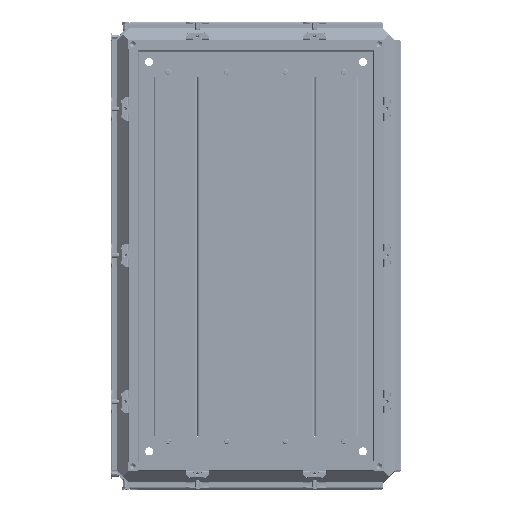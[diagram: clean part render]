
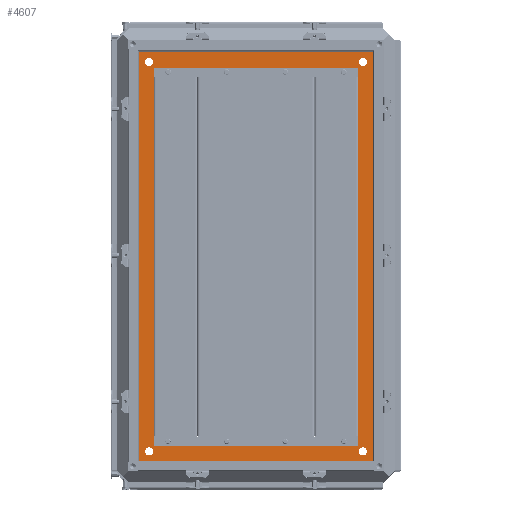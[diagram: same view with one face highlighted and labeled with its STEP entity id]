
A CAD part, top view. The second image highlights one B-rep face of the part: STEP entity #4607.
In plain terms, the highlighted planar face has unit normal (0, 0, 1).
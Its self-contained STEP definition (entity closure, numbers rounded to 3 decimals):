
#4607=ADVANCED_FACE('',(#15779,#15781,#15783,#15785,#15787,#15789),#15791,.F.);
#15779=FACE_BOUND('',#15780,.T.);
#15780=EDGE_LOOP('',(#99433,#99434,#99435,#99436));
#15781=FACE_BOUND('',#15782,.T.);
#15782=EDGE_LOOP('',(#99437,#99438,#99439,#99440));
#15783=FACE_BOUND('',#15784,.T.);
#15784=EDGE_LOOP('',(#99441));
#15785=FACE_BOUND('',#15786,.T.);
#15786=EDGE_LOOP('',(#99442));
#15787=FACE_BOUND('',#15788,.T.);
#15788=EDGE_LOOP('',(#99443));
#15789=FACE_BOUND('',#15790,.T.);
#15790=EDGE_LOOP('',(#99444));
#15791=PLANE('',#15792);
#15792=AXIS2_PLACEMENT_3D('',#15793,#15794,#15795);
#15793=CARTESIAN_POINT('',(0.,0.,-47.5));
#15794=DIRECTION('',(0.,0.,-1.));
#15795=DIRECTION('',(0.,1.,0.));
#99433=ORIENTED_EDGE('',*,*,#150031,.F.);
#99434=ORIENTED_EDGE('',*,*,#150032,.F.);
#99435=ORIENTED_EDGE('',*,*,#150033,.T.);
#99436=ORIENTED_EDGE('',*,*,#150034,.T.);
#99437=ORIENTED_EDGE('',*,*,#150035,.T.);
#99438=ORIENTED_EDGE('',*,*,#150036,.F.);
#99439=ORIENTED_EDGE('',*,*,#150037,.F.);
#99440=ORIENTED_EDGE('',*,*,#150038,.F.);
#99441=ORIENTED_EDGE('',*,*,#150039,.T.);
#99442=ORIENTED_EDGE('',*,*,#150040,.F.);
#99443=ORIENTED_EDGE('',*,*,#150041,.F.);
#99444=ORIENTED_EDGE('',*,*,#150042,.T.);
#150031=EDGE_CURVE('',#176238,#176239,#176240,.F.);
#150032=EDGE_CURVE('',#176241,#176238,#176242,.F.);
#150033=EDGE_CURVE('',#176241,#176243,#176244,.F.);
#150034=EDGE_CURVE('',#176243,#176239,#176245,.F.);
#150035=EDGE_CURVE('',#176246,#176247,#176248,.F.);
#150036=EDGE_CURVE('',#176249,#176247,#176250,.F.);
#150037=EDGE_CURVE('',#176251,#176249,#176252,.F.);
#150038=EDGE_CURVE('',#176246,#176251,#176253,.F.);
#150039=EDGE_CURVE('',#176254,#176254,#176255,.T.);
#150040=EDGE_CURVE('',#176256,#176256,#176257,.T.);
#150041=EDGE_CURVE('',#176258,#176258,#176259,.T.);
#150042=EDGE_CURVE('',#176260,#176260,#176261,.T.);
#176238=VERTEX_POINT('',#222027);
#176239=VERTEX_POINT('',#222028);
#176240=LINE('',#222029,#222030);
#176241=VERTEX_POINT('',#222032);
#176242=LINE('',#222033,#222034);
#176243=VERTEX_POINT('',#222036);
#176244=LINE('',#222037,#222038);
#176245=LINE('',#222040,#222041);
#176246=VERTEX_POINT('',#222043);
#176247=VERTEX_POINT('',#222044);
#176248=LINE('',#222045,#222046);
#176249=VERTEX_POINT('',#222048);
#176250=LINE('',#222049,#222050);
#176251=VERTEX_POINT('',#222052);
#176252=LINE('',#222053,#222054);
#176253=LINE('',#222056,#222057);
#176254=VERTEX_POINT('',#222059);
#176255=CIRCLE('',#222060,7.);
#176256=VERTEX_POINT('',#222064);
#176257=CIRCLE('',#222065,7.);
#176258=VERTEX_POINT('',#222069);
#176259=CIRCLE('',#222070,7.);
#176260=VERTEX_POINT('',#222074);
#176261=CIRCLE('',#222075,7.);
#222027=CARTESIAN_POINT('',(-1.6,1.6,-47.5));
#222028=CARTESIAN_POINT('',(-400.4,1.6,-47.5));
#222029=CARTESIAN_POINT('',(-400.4,1.6,-47.5));
#222030=VECTOR('',#222031,1.);
#222031=DIRECTION('',(1.,0.,0.));
#222032=CARTESIAN_POINT('',(-1.6,700.4,-47.5));
#222033=CARTESIAN_POINT('',(-1.6,1.6,-47.5));
#222034=VECTOR('',#222035,1.);
#222035=DIRECTION('',(0.,1.,0.));
#222036=CARTESIAN_POINT('',(-400.4,700.4,-47.5));
#222037=CARTESIAN_POINT('',(-400.4,700.4,-47.5));
#222038=VECTOR('',#222039,1.);
#222039=DIRECTION('',(1.,0.,0.));
#222040=CARTESIAN_POINT('',(-400.4,1.6,-47.5));
#222041=VECTOR('',#222042,1.);
#222042=DIRECTION('',(0.,1.,0.));
#222043=CARTESIAN_POINT('',(-39.4,39.4,-47.5));
#222044=CARTESIAN_POINT('',(-362.6,39.4,-47.5));
#222045=CARTESIAN_POINT('',(-362.6,39.4,-47.5));
#222046=VECTOR('',#222047,1.);
#222047=DIRECTION('',(1.,0.,0.));
#222048=CARTESIAN_POINT('',(-362.6,662.6,-47.5));
#222049=CARTESIAN_POINT('',(-362.6,39.4,-47.5));
#222050=VECTOR('',#222051,1.);
#222051=DIRECTION('',(0.,1.,0.));
#222052=CARTESIAN_POINT('',(-39.4,662.6,-47.5));
#222053=CARTESIAN_POINT('',(-362.6,662.6,-47.5));
#222054=VECTOR('',#222055,1.);
#222055=DIRECTION('',(1.,0.,0.));
#222056=CARTESIAN_POINT('',(-39.4,662.6,-47.5));
#222057=VECTOR('',#222058,1.);
#222058=DIRECTION('',(0.,-1.,0.));
#222059=CARTESIAN_POINT('',(-18.5,25.5,-47.5));
#222060=AXIS2_PLACEMENT_3D('',#222061,#222062,#222063);
#222061=CARTESIAN_POINT('',(-18.5,18.5,-47.5));
#222062=DIRECTION('',(0.,0.,-1.));
#222063=DIRECTION('',(0.,1.,0.));
#222064=CARTESIAN_POINT('',(-383.5,25.5,-47.5));
#222065=AXIS2_PLACEMENT_3D('',#222066,#222067,#222068);
#222066=CARTESIAN_POINT('',(-383.5,18.5,-47.5));
#222067=DIRECTION('',(0.,0.,1.));
#222068=DIRECTION('',(0.,1.,0.));
#222069=CARTESIAN_POINT('',(-18.5,676.5,-47.5));
#222070=AXIS2_PLACEMENT_3D('',#222071,#222072,#222073);
#222071=CARTESIAN_POINT('',(-18.5,683.5,-47.5));
#222072=DIRECTION('',(0.,0.,1.));
#222073=DIRECTION('',(0.,-1.,0.));
#222074=CARTESIAN_POINT('',(-383.5,676.5,-47.5));
#222075=AXIS2_PLACEMENT_3D('',#222076,#222077,#222078);
#222076=CARTESIAN_POINT('',(-383.5,683.5,-47.5));
#222077=DIRECTION('',(0.,0.,-1.));
#222078=DIRECTION('',(0.,-1.,0.));
